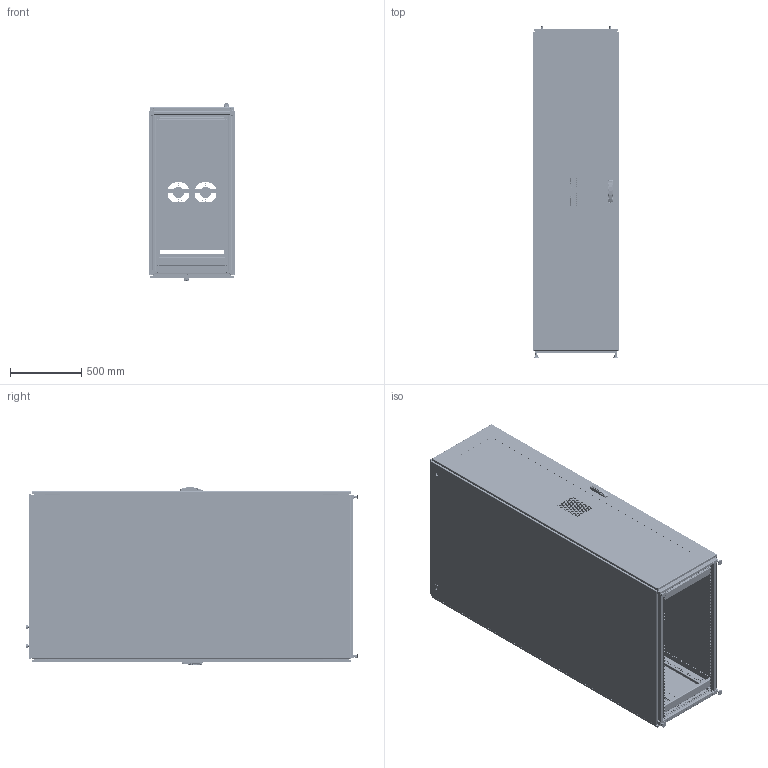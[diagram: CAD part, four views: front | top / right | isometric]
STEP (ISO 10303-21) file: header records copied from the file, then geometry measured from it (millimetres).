
FILE_DESCRIPTION (( 'STEP AP203' ), '1' );
FILE_NAME ('ps1s23612b.STEP', '2021-04-06T13:41:16', ( '' ), ( '' ), 'SwSTEP 2.0', 'SolidWorks 2016', '' );
FILE_SCHEMA (( 'CONFIG_CONTROL_DESIGN' ));
Length unit declared in the file: millimetre
Products named in the file (79): 89183759; 60127013; 11158140_11158140; 87931368_SLEEVE; 89165751_89165751; 11258733_Full Length flat; 89168553; 11158141_11158141; 11158139_11158139; 64201001; ps1s23612b; 60127101_After Weld; 89091664_875472289; 89183744; 60127372_60127372; 87931362_87931362; 60127101_60127101; 87417023; 89183756; 89165870; 27131001; 99415203_99401225; 89183781; 87415413_87415413; 11458172_11458172; 87938982_87938982; 87793688; 89165526_89165526; 89183768; 11158180_11158180; 30127077; 89183774; 89090299_87790201; 89183765; 87932266; 89183762; 99401225_Config-Drawing; 89090300; 11458171_11458171; 87950638_87950638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
Assembly tree (171 placements, depth 5):
  ps1s23612b
    89183744
      60127013  x8
      89183789  x4
      30127077  x4
      87780929  x4
    89090302  x6
      89090300
        89090299_87790201
        60127135_installed position SS  x2
    89183747
      89183750
        89183753
        89183756
        60100041_60100041  x2
          87931527_87931527
          87931368_SLEEVE
        60127101_After Weld  x2
        87920638_87920638  x6
      89165870
      89168254_1 INCH SQUARE  x3
      89091664_875472289  x4
      89165751_89165751  x2
      89183790  x2
      89101845  x4
    64127324  x4
    89165526_89165526  x4
    89183792  x2
    89183793  x2
    89183759
      89183762
        89183765
        89183777
        60127101_60127101  x2
        87931362_87931362  x2
        99411910  x2
        60100041_60100041  x2
          87931527_87931527
          87931368_SLEEVE
      60127372_60127372
        11158139_11158139
        11258030_11258030
        11458172_11458172
        60127208
        60127207
        11458171_11458171
        11358776_11358776
        11158180_11158180
        11258029_11258029
        11158141_11158141
        11158140_11158140
      87938982_87938982
        64201001
        87541995
        87932266
        87927840_87927840
        64210001
        87950638_87950638
        11258598_11258598
        99401452  x2
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Bounding box: 610.31 x 2331.62 x 1247.87 mm (x, y, z)
Volume: 21549743.4 mm3; surface area: 26067790.8 mm2
Topology: 215 solids, 256 shells, 32206 faces, 87553 edges, 56368 vertices
Faces by surface type: plane 16180, cylinder 12851, bspline 1363, torus 1128, cone 537, sphere 147
Entity records: 527772 total; most frequent: CARTESIAN_POINT 142893, ORIENTED_EDGE 77470, DIRECTION 76484, EDGE_CURVE 38755, AXIS2_PLACEMENT_3D 27161, VERTEX_POINT 25067, LINE 22162, VECTOR 22162
